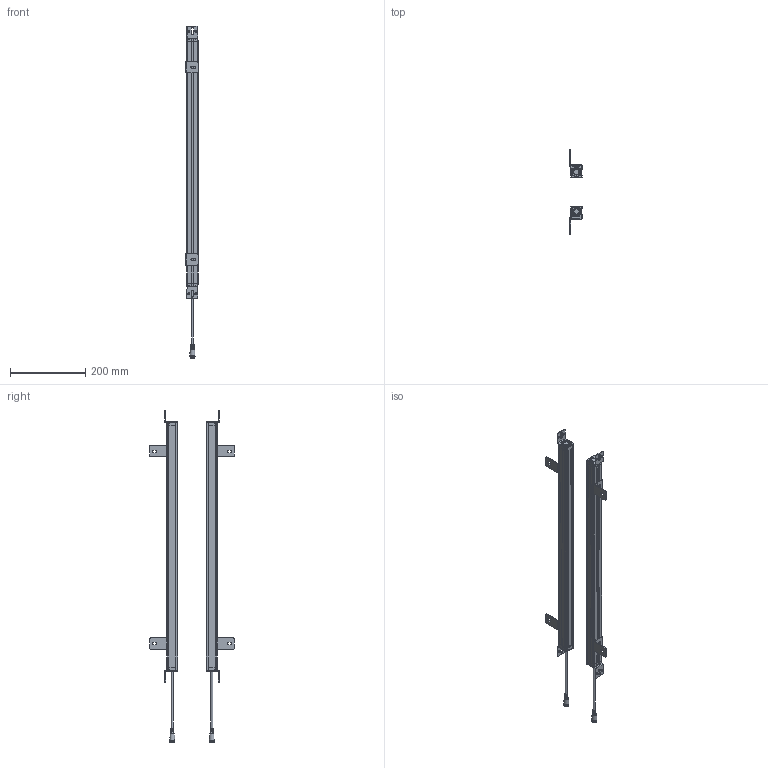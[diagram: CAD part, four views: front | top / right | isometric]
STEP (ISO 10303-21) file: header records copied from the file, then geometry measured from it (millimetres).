
FILE_DESCRIPTION(/* description */ (''),/* implementation_level */ '2;1');
FILE_NAME(/* name */ '1640（29x30）_stp_stp.stp',/* time_stamp */ '2023-04-28T10:22:57+08:00',/* author */ (''),/* organization */ (''),/* preprocessor_version */ 'ST-DEVELOPER v16.7',/* originating_system */ 'SIEMENS PLM Software NX 12.0',/* authorisation */ '');
FILE_SCHEMA (('AUTOMOTIVE_DESIGN { 1 0 10303 214 3 1 1 1 }'));
Products named in the file (1): 1640（29x30）_stp_stp_stp
Bounding box: 32.03 x 223.99 x 881 mm (x, y, z)
Volume: 431865.6 mm3; surface area: 447636.1 mm2
Topology: 34 solids, 34 shells, 1610 faces, 4267 edges, 2771 vertices
Faces by surface type: plane 750, cylinder 648, bspline 88, sphere 36, cone 36, torus 32, extrusion 20
Full cylindrical faces by diameter (mm): 1.533 x6, 4.4 x4, 9 x2, 12.5 x2
Entity records: 56427 total; most frequent: CARTESIAN_POINT 16064, DIRECTION 8330, ORIENTED_EDGE 8324, EDGE_CURVE 4162, AXIS2_PLACEMENT_3D 2918, VERTEX_POINT 2696, VECTOR 2494, LINE 2474
